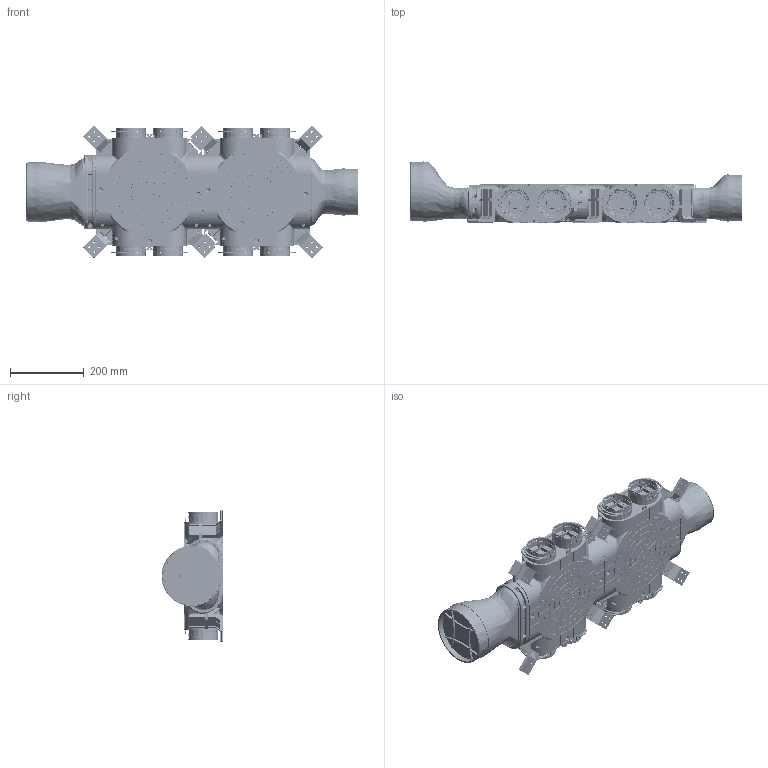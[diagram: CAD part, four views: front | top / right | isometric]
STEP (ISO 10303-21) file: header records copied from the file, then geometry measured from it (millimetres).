
FILE_DESCRIPTION((''),'2;1');
FILE_NAME('VCB160-8-P125_UPR_ASM','2025-12-29T16:05:02',('niepogodzinskij'),(''),'CREO PARAMETRIC BY PTC INC, 2025010','CREO PARAMETRIC BY PTC INC, 2025010','');
FILE_SCHEMA(('CONFIG_CONTROL_DESIGN'));
Products named in the file (8): 0VCBOP_OBUD_VCB_PELNA_1_1_2_3_6; 0VCBP75X2_1_1_2_3_4_5_6; 0VPEO_OBEJMA_1_1_2_3_4_5_6; 0VBWM_WSPORNIK_VPB_VCB_1_1_2__6; 0VCBP160_PRZYLACZE160_1_1_2_3_4; 0VCBP125_PRZYLACZE125_1_1_2_3_6; ASM0001_ASM_1_1_2_3_4_5_6_ASM; VCB160-8-P125_UPR_ASM
Assembly tree (19 placements, depth 3):
  VCB160-8-P125_UPR_ASM
    ASM0001_ASM_1_1_2_3_4_5_6_ASM
      0VCBOP_OBUD_VCB_PELNA_1_1_2_3_6  x4
      0VCBP75X2_1_1_2_3_4_5_6  x4
      0VPEO_OBEJMA_1_1_2_3_4_5_6  x2
      0VBWM_WSPORNIK_VPB_VCB_1_1_2__6  x6
      0VCBP160_PRZYLACZE160_1_1_2_3_4
      0VCBP125_PRZYLACZE125_1_1_2_3_6
Bounding box: 897.45 x 164.9 x 357.57 mm (x, y, z)
Volume: 18539714.1 mm3; surface area: 1764306.5 mm2
Topology: 18 solids, 24 shells, 8923 faces, 24090 edges, 15160 vertices
Faces by surface type: plane 3781, cylinder 1947, torus 1218, bspline 1052, cone 708, sphere 200, extrusion 17
Entity records: 113678 total; most frequent: CARTESIAN_POINT 50638, ORIENTED_EDGE 13660, DIRECTION 12984, EDGE_CURVE 6830, AXIS2_PLACEMENT_3D 5165, VERTEX_POINT 4287, CIRCLE 2854, EDGE_LOOP 2719
